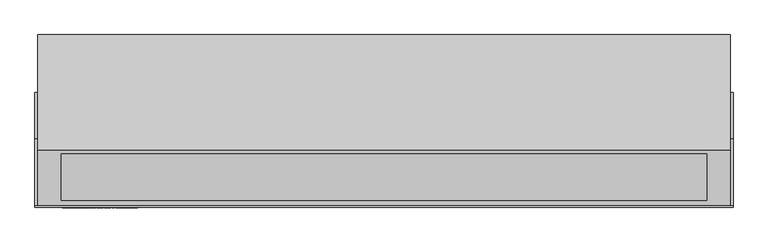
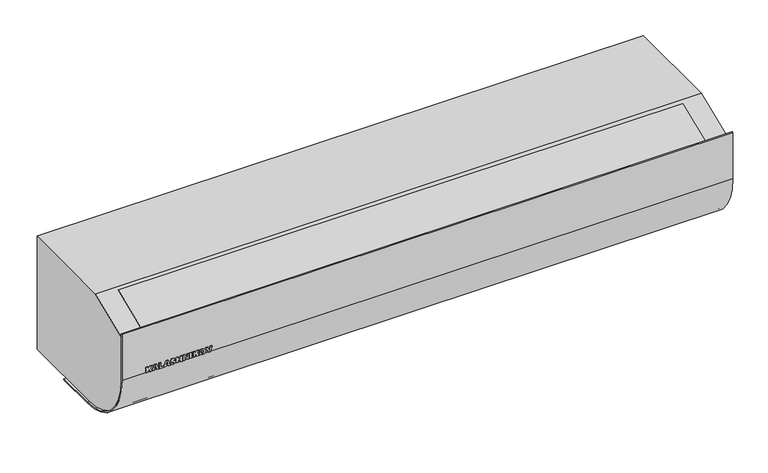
"""IFC4 building model written with IfcOpenShell, lengths in millimetres: proxy geometry, ADSK_Завеса_Электрическая : KVC-B10E6-01."""

from ifc_helpers import new_model, si_unit, point, frame, frame_2d, origin, place, context, project, spatial, polyline, circle_curve, trimmed, segment, composite_curve, outline, extrude, source, transform, mapped, element, save
from ifc_brep_helpers import plane_surface, cylinder_surface, advanced_brep


def mechanical_equipment_54d49482(model_context):
    return source(origin(), model_context, "Body", "SolidModel", [
        extrude(outline(polyline([(114.5, -486.5196078), (104.5, -486.5196078), (104.5, -483.3823529), (106.2647059, -483.3823529), (108.2745098, -481.6115196), (104.5, -479.7794118), (104.5, -475.9313725), (110.7775735, -479.4056373), (114.5, -476.127451), (114.5, -480.3982843), (110.7224265, -483.3823529), (114.5, -483.3823529), (114.5, -486.5196078)])), frame((0.0, -262.0, 0.0), z_axis=(0.0, 1.0, 0.0), x_axis=(0.0, 0.0, 1.0)), (0.0, 0.0, 1.0), 1.0),
        extrude(outline(polyline([(106.0686275, -468.9338235), (104.5, -468.4803922), (104.5, -465.1470588), (114.5, -468.5202206), (114.5, -472.5582108), (104.5, -475.9313725), (104.5, -472.5980392), (106.0686275, -472.1660539), (106.0686275, -468.9338235)]), holes=[polyline([(108.4215686, -469.5281863), (108.4215686, -471.5165441), (111.9540441, -470.5392157), (108.4215686, -469.5281863)])]), frame((0.0, -262.0, 0.0), z_axis=(0.0, 1.0, 0.0), x_axis=(0.0, 0.0, 1.0)), (0.0, 0.0, 1.0), 1.0),
        extrude(outline(polyline([(114.5, -464.1666667), (104.5, -464.1666667), (104.5, -456.3235294), (106.8529412, -456.3235294), (106.8529412, -461.0294118), (114.5, -461.0294118), (114.5, -464.1666667)])), frame((0.0, -262.0, 0.0), z_axis=(0.0, 1.0, 0.0), x_axis=(0.0, 0.0, 1.0)), (0.0, 0.0, 1.0), 1.0),
        extrude(outline(polyline([(106.0686275, -448.9338235), (104.5, -448.4803922), (104.5, -445.1470588), (114.5, -448.5202206), (114.5, -452.5582108), (104.5, -455.9313725), (104.5, -452.5980392), (106.0686275, -452.1660539), (106.0686275, -448.9338235)]), holes=[polyline([(108.4215686, -449.5281863), (108.4215686, -451.5165441), (111.9540441, -450.5392157), (108.4215686, -449.5281863)])]), frame((0.0, -262.0, 0.0), z_axis=(0.0, 1.0, 0.0), x_axis=(0.0, 0.0, 1.0)), (0.0, 0.0, 1.0), 1.0),
        extrude(outline(polyline([(107.8394608, -444.754902), (105.3026961, -443.6488971), (104.3039216, -440.1378676), (104.7297794, -437.7420343), (105.9813113, -436.2637868), (107.78125, -435.7352941), (109.2870711, -436.1305147), (110.4129902, -437.3958333), (111.3106618, -440.2757353), (112.9313725, -440.4074755), (112.6050858, -439.6338848), (111.5588235, -439.2647059), (111.7395833, -436.127451), (113.9883578, -437.3054534), (114.6960784, -440.1807598), (114.3039216, -442.6011029), (113.2285539, -443.9231005), (111.776348, -444.3627451), (109.8492647, -443.4957108), (108.6237745, -440.6219363), (107.3186275, -438.872549), (106.5818015, -439.1865809), (106.2647059, -440.0796569), (106.8958333, -441.2775735), (108.0294118, -441.6176471), (107.8394608, -444.754902)])), frame((0.0, -262.0, 0.0), z_axis=(0.0, 1.0, 0.0), x_axis=(0.0, 0.0, 1.0)), (0.0, 0.0, 1.0), 1.0),
        extrude(outline(polyline([(114.5, -434.1666667), (104.5, -434.1666667), (104.5, -431.0294118), (108.6176471, -431.0294118), (108.6176471, -427.6960784), (104.5, -427.6960784), (104.5, -424.5588235), (114.5, -424.5588235), (114.5, -427.6960784), (110.9705882, -427.6960784), (110.9705882, -431.0294118), (114.5, -431.0294118), (114.5, -434.1666667)])), frame((0.0, -262.0, 0.0), z_axis=(0.0, 1.0, 0.0), x_axis=(0.0, 0.0, 1.0)), (0.0, 0.0, 1.0), 1.0),
        extrude(outline(polyline([(114.5, -422.5980392), (104.5, -422.5980392), (104.5, -419.6568627), (109.9901961, -419.6568627), (104.5, -415.9313725), (104.5, -412.9901961), (114.5, -412.9901961), (114.5, -415.9313725), (108.9730392, -415.9313725), (114.5, -419.6783088), (114.5, -422.5980392)])), frame((0.0, -262.0, 0.0), z_axis=(0.0, 1.0, 0.0), x_axis=(0.0, 0.0, 1.0)), (0.0, 0.0, 1.0), 1.0),
        extrude(outline(polyline([(-407.6960784, -262.0), (-410.8333333, -262.0), (-410.8333333, -261.0), (-407.6960784, -261.0), (-407.6960784, -262.0)])), frame((0.0, 0.0, 104.5), z_axis=(0.0, 0.0, 1.0), x_axis=(1.0, 0.0, 0.0)), (0.0, 0.0, 1.0), 10.0),
        extrude(outline(polyline([(114.5, -405.5392157), (104.5, -405.5392157), (104.5, -402.4019608), (106.2647059, -402.4019608), (108.2745098, -400.6311275), (104.5, -398.7990196), (104.5, -394.9509804), (110.7775735, -398.4252451), (114.5, -395.1470588), (114.5, -399.4178922), (110.7224265, -402.4019608), (114.5, -402.4019608), (114.5, -405.5392157)])), frame((0.0, -262.0, 0.0), z_axis=(0.0, 1.0, 0.0), x_axis=(0.0, 0.0, 1.0)), (0.0, 0.0, 1.0), 1.0),
        extrude(outline(polyline([(109.4938725, -394.3627451), (106.5603554, -393.671875), (104.846201, -391.8688725), (104.3039216, -389.0594363), (104.9304534, -386.2729779), (106.6859681, -384.5618873), (109.5765931, -383.9705882), (113.3495711, -385.3247549), (114.6960784, -389.185049), (113.3250613, -392.9947917), (109.4938725, -394.3627451)]), holes=[polyline([(109.4938725, -391.2254902), (111.6813725, -390.6678922), (112.3431373, -389.1911765), (111.6920956, -387.6685049), (109.6286765, -387.1078431), (107.3048407, -387.645527), (106.6568627, -389.1636029), (107.3186275, -390.6709559), (109.4938725, -391.2254902)])]), frame((0.0, -262.0, 0.0), z_axis=(0.0, 1.0, 0.0), x_axis=(0.0, 0.0, 1.0)), (0.0, 0.0, 1.0), 1.0),
        extrude(outline(polyline([(114.5, -383.1862745), (104.5, -379.4699755), (104.5, -376.1397059), (114.5, -372.4019608), (114.5, -375.7352941), (107.3033088, -377.7941176), (114.5, -379.8560049), (114.5, -383.1862745)])), frame((0.0, -262.0, 0.0), z_axis=(0.0, 1.0, 0.0), x_axis=(0.0, 0.0, 1.0)), (0.0, 0.0, 1.0), 1.0),
        extrude(outline(polyline([(-17.8333333, 10.0), (-17.8333333, 0.0), (-31.6666667, 10.0), (-31.6666667, 0.0), (-45.5, 10.0), (-45.5, 0.0), (-59.3333333, 10.0), (-59.3333333, 0.0), (-73.1666667, 10.0), (-73.1666667, 0.0), (-86.9166498, 10.5360909), (-4.0, 10.5360909), (-4.0, 0.0), (-17.8333333, 10.0)])), frame((-487.5, 0.0, 0.0), z_axis=(1.0, 0.0, 0.0), x_axis=(0.0, 1.0, 0.0)), (0.0, 0.0, 1.0), 975.0),
        advanced_brep(
        [(523.5, -174.0, 209.0), (523.5, -259.0, 174.0), (523.5, -259.0, 104.5), (523.5, -156.5, 2.0), (523.5, 0.0, 2.0), (523.5, 0.0, 209.0), (-523.5, -174.0, 209.0), (-523.5, 0.0, 209.0), (-523.5, 0.0, 2.0), (-523.5, -156.5, 2.0), (-523.5, -259.0, 104.5), (-523.5, -259.0, 174.0), (487.5, -4.0, 2.0), (-487.5, -4.0, 2.0), (-487.5, -87.0, 2.0), (487.5, -87.0, 2.0), (487.5, -4.0, 10.0), (487.5, -87.0, 10.0), (-487.5, -87.0, 10.0), (-487.5, -4.0, 10.0)],
        [
            (0, 1),
            (1, 2),
            (2, 3, circle_curve(frame((523.5, -156.5, 104.5), z_axis=(1.0, 0.0, 0.0), x_axis=(0.0, 1.0, 0.0)), 102.5)),
            (3, 4),
            (4, 5),
            (5, 0),
            (6, 7),
            (7, 8),
            (8, 9),
            (9, 10, circle_curve(frame((-523.5, -156.5, 104.5), z_axis=(-1.0, 0.0, 0.0), x_axis=(0.0, 1.0, 0.0)), 102.5)),
            (10, 11),
            (11, 6),
            (1, 11),
            (10, 2),
            (4, 8),
            (7, 5),
            (6, 0),
            (9, 3),
            (12, 13),
            (13, 14),
            (14, 15),
            (15, 12),
            (16, 17),
            (17, 18),
            (18, 19),
            (19, 16),
            (19, 13),
            (12, 16),
            (18, 14),
            (17, 15),
        ],
        [
            plane_surface(frame((523.5, -174.0, 209.0), z_axis=(1.0, 0.0, 0.0), x_axis=(0.0, -0.924678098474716, -0.38074980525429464))),
            plane_surface(frame((-523.5, -174.0, 209.0), z_axis=(-1.0, 0.0, 0.0), x_axis=(0.0, 0.924678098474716, 0.38074980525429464))),
            plane_surface(frame((523.5, -259.0, 174.0), z_axis=(0.0, -1.0, 0.0), x_axis=(-1.0, 0.0, 0.0))),
            plane_surface(frame((523.5, 0.0, 2.0), z_axis=(0.0, 1.0, 0.0), x_axis=(-1.0, 0.0, 0.0))),
            plane_surface(frame((523.5, 0.0, 209.0), z_axis=(0.0, 0.0, 1.0), x_axis=(-1.0, 0.0, 0.0))),
            cylinder_surface(frame((-523.5, -156.5, 104.5), z_axis=(1.0, 0.0, 0.0), x_axis=(0.0, 1.0, 0.0)), 102.5),
            plane_surface(frame((523.5, -156.5, 2.0), z_axis=(0.0, 0.0, -1.0), x_axis=(-1.0, 0.0, 0.0))),
            plane_surface(frame((523.5, -174.0, 209.0), z_axis=(0.0, -0.38074980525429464, 0.924678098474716), x_axis=(-1.0, 0.0, 0.0))),
            plane_surface(frame((-487.5, -4.0, 10.0), z_axis=(0.0, 0.0, -1.0), x_axis=(-1.0, 0.0, 0.0))),
            plane_surface(frame((487.5, -4.0, 10.0), z_axis=(0.0, -1.0, 0.0), x_axis=(0.0, 0.0, -1.0))),
            plane_surface(frame((-487.5, -4.0, 10.0), z_axis=(1.0, 0.0, 0.0), x_axis=(0.0, 0.0, -1.0))),
            plane_surface(frame((-487.5, -87.0, 10.0), z_axis=(0.0, 1.0, 0.0), x_axis=(0.0, 0.0, -1.0))),
            plane_surface(frame((487.5, -87.0, 10.0), z_axis=(-1.0, 0.0, 0.0), x_axis=(0.0, 0.0, -1.0))),
        ],
        [
            (0, [[1, 2, 3, 4, 5, 6]]),
            (1, [[7, 8, 9, 10, 11, 12]]),
            (2, [[-2, 13, -11, 14]]),
            (3, [[-5, 15, -8, 16]]),
            (4, [[-6, -16, -7, 17]]),
            (5, [[-3, -14, -10, 18]]),
            (6, [[-4, -18, -9, -15], [19, 20, 21, 22]]),
            (7, [[-1, -17, -12, -13]]),
            (8, [[23, 24, 25, 26]]),
            (9, [[-26, 27, -19, 28]]),
            (10, [[-25, 29, -20, -27]]),
            (11, [[-24, 30, -21, -29]]),
            (12, [[-23, -28, -22, -30]]),
        ],
    ),
        extrude(outline(polyline([(0.0, -76.1279367), (0.0, 0.0), (975.0, 0.0), (975.0, -76.1279367), (0.0, -76.1279367)])), frame((487.5, -250.390912, 176.9269802), z_axis=(0.0, -0.38074980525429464, 0.924678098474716), x_axis=(-1.0, 0.0, 0.0)), (0.0, 0.0, 1.0), 1.1427881),
        extrude(outline(composite_curve([segment(polyline([(-261.0, 189.0), (-259.0, 189.0), (-259.0, 104.5)]), True, "CONTINUOUS"), segment(trimmed(circle_curve(frame_2d((-156.5, 104.5)), 102.5), [point((-259.0, 104.5))], [point((-156.5, 2.0))], True, "CARTESIAN"), True, "CONTINUOUS"), segment(polyline([(-156.5, 2.0), (-87.0, 2.0), (-87.0, 0.0), (-156.5, 0.0)]), True, "CONTINUOUS"), segment(trimmed(circle_curve(frame_2d((-156.5, 104.5)), 104.5), [point((-156.5, 0.0))], [point((-261.0, 104.5))], False, "CARTESIAN"), True, "CONTINUOUS"), segment(polyline([(-261.0, 104.5), (-261.0, 189.0)]), True, "CONTINUOUS")], self_intersect=False)), frame((-527.5, 0.0, 0.0), z_axis=(1.0, 0.0, 0.0), x_axis=(0.0, 1.0, 0.0)), (0.0, 0.0, 1.0), 1055.0),
    ])


if __name__ == "__main__":
    model = new_model("IFC4")
    model_context = context("Model", 3, world=origin())
    ifc_project = project(units=[si_unit("LENGTHUNIT", "METRE", prefix="MILLI")], contexts=[model_context])
    site = spatial("IfcSite", under=ifc_project)
    building = spatial("IfcBuilding", under=site)
    placement = place(None, origin())
    mechanical_equipment_shape = mechanical_equipment_54d49482(model_context)
    element("IfcBuildingElementProxy", 1, Name="ADSK_Завеса_Электрическая : KVC-B10E6-01", ObjectType="ADSK_Завеса_Электрическая : KVC-B10E6-01", at=placement, inside=building, context=model_context, shape_type="MappedRepresentation", body=[
        mapped(mechanical_equipment_shape, transform((0.0, 0.0, 0.0), x_axis=(1.0, 0.0, 0.0), y_axis=(0.0, 1.0, 0.0), z_axis=(0.0, 0.0, 1.0))),
    ])
    save(model, "model.ifc")
